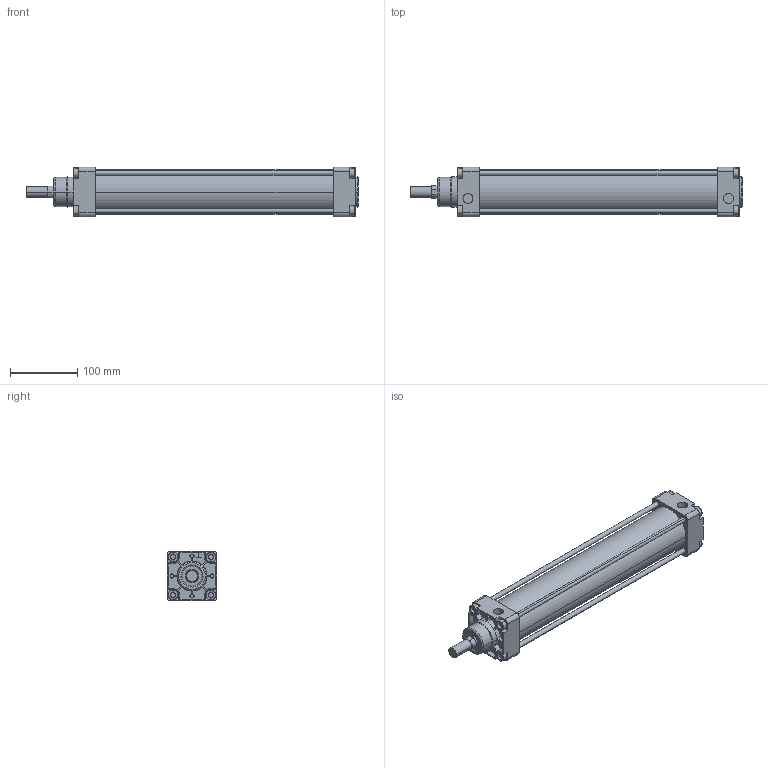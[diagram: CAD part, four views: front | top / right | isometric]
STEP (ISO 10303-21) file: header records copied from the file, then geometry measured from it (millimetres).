
FILE_DESCRIPTION(('CATIA V5 STEP Exchange'),'2;1');
FILE_NAME('D:\stp file for catalog\PNC\63\pnc 63-20-300.stp','2015-06-16T06:03:07+00:00',('none'),('none'),'Version 5-6 Release 2012','CATIA V5 STEP AP203','none');
FILE_SCHEMA(('CONFIG_CONTROL_DESIGN'));
Length unit declared in the file: millimetre
Products named in the file (1): pnc 63-20-300-00
Assembly tree (2 placements, depth 2):
  pnc 63-20-300-00
    #58
    #15151
Bounding box: 495.5 x 74.5 x 74.5 mm (x, y, z)
Volume: 828587.1 mm3; surface area: 288300.5 mm2
Topology: 6 solids, 6 shells, 572 faces, 1446 edges, 930 vertices
Faces by surface type: plane 356, cylinder 154, torus 26, cone 20, extrusion 16
Entity records: 15575 total; most frequent: CARTESIAN_POINT 3056, ORIENTED_EDGE 2892, DIRECTION 1926, EDGE_CURVE 1446, VECTOR 930, VERTEX_POINT 930, LINE 914, AXIS2_PLACEMENT_3D 732
